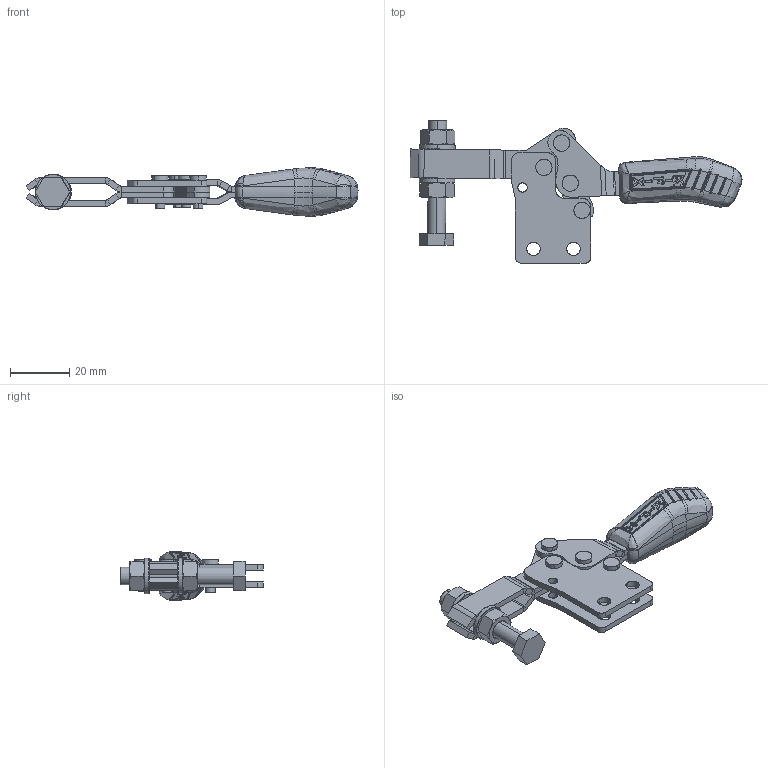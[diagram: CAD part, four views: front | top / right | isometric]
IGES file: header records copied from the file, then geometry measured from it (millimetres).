
Start section: SolidWorks IGES file using analytic representation for surfaces
Global section: file name: C:\Projetos\Grampos\KF-106\KF-106 R\KF-106 R.IGS; native system: SolidWorks 2013; preprocessor: SolidWorks 2013; author: Ricardo; date: 140815.141546; units: millimetre
Bounding box: 112.11 x 48.1 x 16.29 mm (x, y, z)
Surface area: 15994.3 mm2 (no closed solid volume)
Topology: 0 solids, 0 shells, 1032 faces, 11209 edges, 11186 vertices
Faces by surface type: bspline 572, revolution 460
